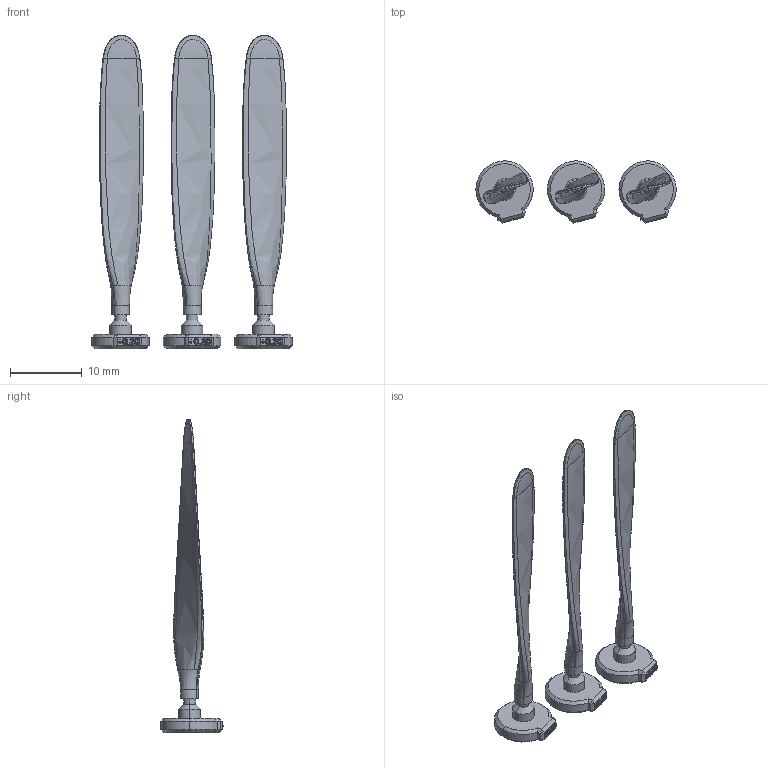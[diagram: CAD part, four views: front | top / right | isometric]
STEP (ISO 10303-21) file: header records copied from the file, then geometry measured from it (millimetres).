
FILE_DESCRIPTION(/* description */ (''),/* implementation_level */ '2;1');
FILE_NAME(/* name */ 'HSBLAD~1',/* time_stamp */ '2021-03-31T18:37:09+02:00',/* author */ (''),/* organization */ (''),/* preprocessor_version */ 'ST-DEVELOPER v16.5',/* originating_system */ '',/* authorisation */ '');
FILE_SCHEMA (('CONFIG_CONTROL_DESIGN'));
Length unit declared in the file: millimetre
Products named in the file (1): Document
Bounding box: 27.99 x 8.68 x 43.84 mm (x, y, z)
Volume: 828.8 mm3; surface area: 1923 mm2
Topology: 3 solids, 3 shells, 288 faces, 672 edges, 408 vertices
Faces by surface type: plane 147, bspline 117, cylinder 24
Entity records: 20408 total; most frequent: CARTESIAN_POINT 15824, ORIENTED_EDGE 1320, EDGE_CURVE 660, B_SPLINE_CURVE_WITH_KNOTS 573, VERTEX_POINT 408, EDGE_LOOP 318, ADVANCED_FACE 288, FACE_OUTER_BOUND 288
